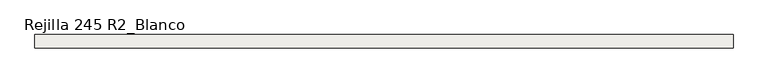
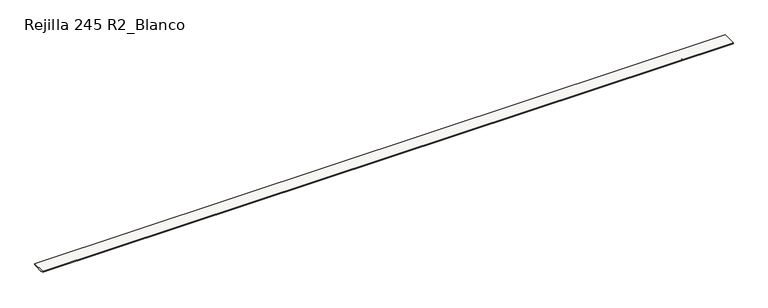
"""IFC4 building model written with IfcOpenShell, lengths in millimetres: slab geometry, ROSA GRES_245 R2_Blanco : Rejilla 245 R2_Blanco."""

from ifc_helpers import new_model, si_unit, frame, origin, place, context, project, spatial, polyline, outline, extrude, source, transform, mapped, element, save


def rejilla_245_r2_blanco_be0b8a0c(model_context):
    return source(origin(), model_context, "Body", "SweptSolid", [
        extrude(outline(polyline([(369.5908797, 206.3460936), (369.5908797, 228.3460936), (614.5908797, 228.3460936), (614.5908797, 206.3460936), (572.3142119, 206.3460936), (561.3142119, 195.3460936), (422.8675475, 195.3460936), (411.8675475, 206.3460936), (369.5908797, 206.3460936)])), frame((0.0, 0.0, 0.0), z_axis=(1.0, 0.0, 0.0), x_axis=(0.0, 1.0, 0.0)), (0.0, 0.0, 1.0), 12625.0),
    ])


if __name__ == "__main__":
    model = new_model("IFC4")
    model_context = context("Model", 3, world=origin())
    ifc_project = project(units=[si_unit("LENGTHUNIT", "METRE", prefix="MILLI")], contexts=[model_context])
    site = spatial("IfcSite", under=ifc_project)
    building = spatial("IfcBuilding", under=site)
    placement = place(None, origin())
    rejilla_245_r2_blanco_shape = rejilla_245_r2_blanco_be0b8a0c(model_context)
    element("IfcSlab", 1, ObjectType="ROSA GRES_245 R2_Blanco : Rejilla 245 R2_Blanco", at=placement, inside=building, context=model_context, shape_type="MappedRepresentation", body=[
        mapped(rejilla_245_r2_blanco_shape, transform((0.0, 0.0, 0.0), x_axis=(1.0, 0.0, 0.0), y_axis=(0.0, 1.0, 0.0), z_axis=(0.0, 0.0, 1.0))),
    ])
    save(model, "model.ifc")
